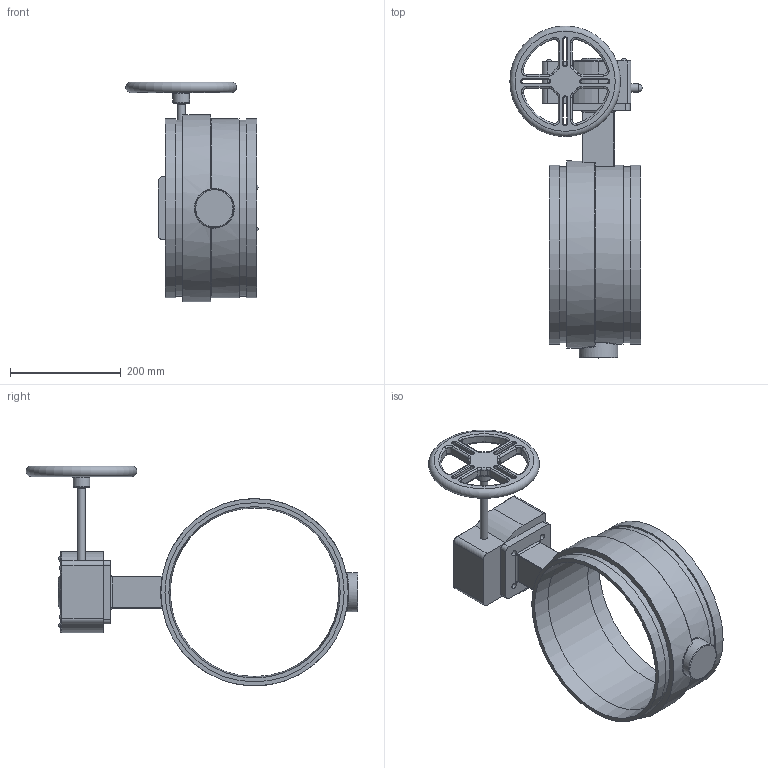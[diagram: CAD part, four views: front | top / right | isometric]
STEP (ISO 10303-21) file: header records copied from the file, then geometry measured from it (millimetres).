
FILE_DESCRIPTION(/* description */ ('Vic Series 461 Vic-300 MasterSeal SS Butterfly Valve w/Gear Op','CAx-IF Rec.Pracs.---Representation and Presentation of Product Manufacturing Information (PMI)---4.0---2014-10-13'),/* implementation_level */ '2;1');
FILE_NAME(/* name */ 'C:\Users\kkamble\AppData\Roaming\Autodesk\ApplicationPlugins\Back Up\Victaulic_SS-OGS_Valve Butterfly Vic-300 Masterseal GO_Series 461 (OGS)\Victaulic_SS-OGS_Valve Butterfly Vic-300 Masterseal GO_12 (300).stp',/* time_stamp */ '2020-09-02T14:51:25+05:00',/* author */ ('jbrannon'),/* organization */ ('Victaulic'),/* preprocessor_version */ 'ST-DEVELOPER v17.2',/* originating_system */ 'Autodesk Inventor 2019',/* authorisation */ '');
FILE_SCHEMA (('AP242_MANAGED_MODEL_BASED_3D_ENGINEERING_MIM_LF { 1 0 10303 442 1 1 4 }'));
Length unit declared in the file: inch
Products named in the file (3): 461-12.0; 461-12.0_1; 461-12.0_2
Assembly tree (2 placements, depth 2):
  461-12.0
    461-12.0_1
    461-12.0_2
Bounding box: 239.01 x 599.44 x 397.38 mm (x, y, z)
Volume: 4362397.9 mm3; surface area: 588702.5 mm2
Topology: 2 solids, 2 shells, 357 faces, 841 edges, 510 vertices
Faces by surface type: cylinder 140, plane 95, torus 91, bspline 16, sphere 12, cone 3
Full cylindrical faces by diameter (mm): 7.938 x4, 10.922 x4, 12.7 x2, 13.97 x1, 15.875 x2, 30.48 x1, 63.5 x1, 69.85 x1, 70.104 x1, 304.8 x1, 318.287 x2, 323.85 x3, 338.582 x1
Entity records: 11463 total; most frequent: CARTESIAN_POINT 2441, DIRECTION 1983, ORIENTED_EDGE 1672, EDGE_CURVE 836, AXIS2_PLACEMENT_3D 836, VERTEX_POINT 511, CIRCLE 486, EDGE_LOOP 411
